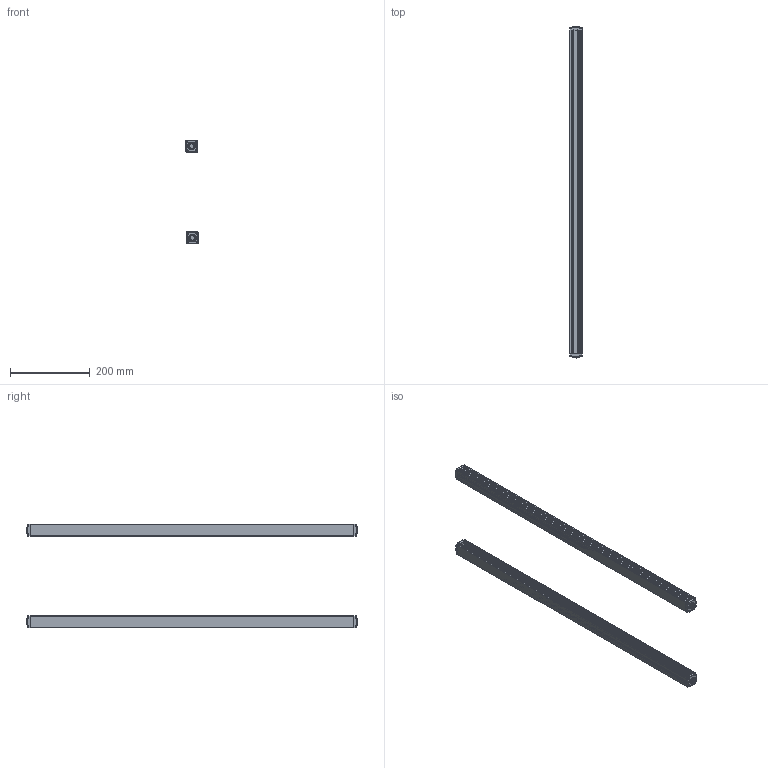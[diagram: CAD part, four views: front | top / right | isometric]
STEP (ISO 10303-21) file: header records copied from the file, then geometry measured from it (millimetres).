
FILE_DESCRIPTION (( 'STEP AP203' ), '1' );
FILE_NAME ('ZDA4020-810.STEP', '2023-03-17T02:29:56', ( 'User' ), ( 'China' ), 'SwSTEP 2.0', 'SolidWorks 2020', '' );
FILE_SCHEMA (( 'CONFIG_CONTROL_DESIGN' ));
Length unit declared in the file: millimetre
Products named in the file (5): 錨璃8 - 萵掛 (2); 錨璃8; 錨璃10; ZDA4020-810; 錨璃1
Assembly tree (7 placements, depth 2):
  ZDA4020-810
    錨璃1  x2
    錨璃8  x2
    錨璃8 - 萵掛 (2)  x2
    錨璃10
Bounding box: 32.26 x 831.4 x 260.24 mm (x, y, z)
Volume: 488205 mm3; surface area: 516415.8 mm2
Topology: 7 solids, 7 shells, 1050 faces, 2738 edges, 1696 vertices
Faces by surface type: plane 468, cylinder 318, cone 120, bspline 64, torus 48, sphere 32
Entity records: 18298 total; most frequent: CARTESIAN_POINT 4907, ORIENTED_EDGE 2726, DIRECTION 2656, EDGE_CURVE 1363, AXIS2_PLACEMENT_3D 906, VERTEX_POINT 852, LINE 844, VECTOR 844
